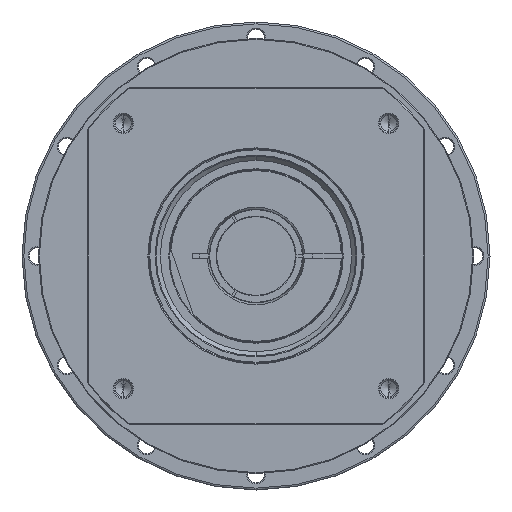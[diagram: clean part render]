
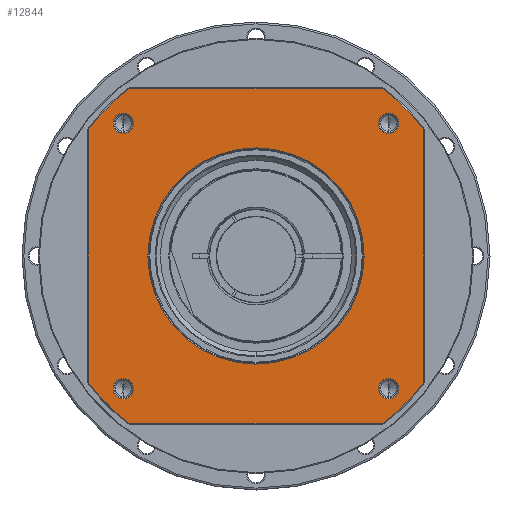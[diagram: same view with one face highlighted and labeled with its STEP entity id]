
A CAD part, left-side view. The second image highlights one B-rep face of the part: STEP entity #12844.
In plain terms, the highlighted planar face has unit normal (-1, 0, 0) as drawn and (0, 0, 1) by its records, which use the part's own axes.
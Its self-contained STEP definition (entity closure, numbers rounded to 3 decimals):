
#11577=DIRECTION('',(1.,0.,0.));
#11578=VECTOR('',#11577,134.666);
#11579=CARTESIAN_POINT('',(-67.333,-89.5,41.));
#11580=LINE('',#11579,#11578);
#11590=CARTESIAN_POINT('',(0.,0.,
41.));
#11591=DIRECTION('',(0.,0.,-1.));
#11592=DIRECTION('',(0.,-1.,0.));
#11593=AXIS2_PLACEMENT_3D('',#11590,#11591,#11592);
#11595=CARTESIAN_POINT('',(0.,0.,
41.));
#11596=DIRECTION('',(0.,0.,-1.));
#11597=DIRECTION('',(0.,1.,0.));
#11598=AXIS2_PLACEMENT_3D('',#11595,#11596,#11597);
#11600=CARTESIAN_POINT('',(0.,0.,41.));
#11601=DIRECTION('',(0.,0.,1.));
#11602=DIRECTION('',(-0.799,-0.601,0.));
#11603=AXIS2_PLACEMENT_3D('',#11600,#11601,#11602);
#11615=DIRECTION('',(0.,-1.,0.));
#11616=VECTOR('',#11615,134.666);
#11617=CARTESIAN_POINT('',(-89.5,67.333,41.));
#11618=LINE('',#11617,#11616);
#11628=CARTESIAN_POINT('',(0.,0.,41.));
#11629=DIRECTION('',(0.,0.,1.));
#11630=DIRECTION('',(-0.601,0.799,0.));
#11631=AXIS2_PLACEMENT_3D('',#11628,#11629,#11630);
#11656=DIRECTION('',(-1.,0.,0.));
#11657=VECTOR('',#11656,134.666);
#11658=CARTESIAN_POINT('',(67.333,89.5,41.));
#11659=LINE('',#11658,#11657);
#11664=CARTESIAN_POINT('',(0.,0.,41.));
#11665=DIRECTION('',(0.,0.,1.));
#11666=DIRECTION('',(0.799,0.601,0.));
#11667=AXIS2_PLACEMENT_3D('',#11664,#11665,#11666);
#11679=DIRECTION('',(0.,1.,0.));
#11680=VECTOR('',#11679,134.666);
#11681=CARTESIAN_POINT('',(89.5,-67.333,41.));
#11682=LINE('',#11681,#11680);
#11784=CARTESIAN_POINT('',(0.,0.,41.));
#11785=DIRECTION('',(0.,0.,1.));
#11786=DIRECTION('',(0.601,-0.799,0.));
#11787=AXIS2_PLACEMENT_3D('',#11784,#11785,#11786);
#12061=CARTESIAN_POINT('',(-70.711,70.711,41.));
#12062=DIRECTION('',(0.,0.,1.));
#12063=DIRECTION('',(-1.,0.,0.));
#12064=AXIS2_PLACEMENT_3D('',#12061,#12062,#12063);
#12079=CARTESIAN_POINT('',(-70.711,70.711,41.));
#12080=DIRECTION('',(0.,0.,1.));
#12081=DIRECTION('',(1.,0.,0.));
#12082=AXIS2_PLACEMENT_3D('',#12079,#12080,#12081);
#12115=CARTESIAN_POINT('',(70.711,70.711,41.));
#12116=DIRECTION('',(0.,0.,1.));
#12117=DIRECTION('',(-1.,0.,0.));
#12118=AXIS2_PLACEMENT_3D('',#12115,#12116,#12117);
#12133=CARTESIAN_POINT('',(70.711,70.711,41.));
#12134=DIRECTION('',(0.,0.,1.));
#12135=DIRECTION('',(1.,0.,0.));
#12136=AXIS2_PLACEMENT_3D('',#12133,#12134,#12135);
#12169=CARTESIAN_POINT('',(70.711,-70.711,41.));
#12170=DIRECTION('',(0.,0.,1.));
#12171=DIRECTION('',(-1.,0.,0.));
#12172=AXIS2_PLACEMENT_3D('',#12169,#12170,#12171);
#12187=CARTESIAN_POINT('',(70.711,-70.711,41.));
#12188=DIRECTION('',(0.,0.,1.));
#12189=DIRECTION('',(1.,0.,0.));
#12190=AXIS2_PLACEMENT_3D('',#12187,#12188,#12189);
#12223=CARTESIAN_POINT('',(-70.711,-70.711,41.));
#12224=DIRECTION('',(0.,0.,1.));
#12225=DIRECTION('',(-1.,0.,0.));
#12226=AXIS2_PLACEMENT_3D('',#12223,#12224,#12225);
#12241=CARTESIAN_POINT('',(-70.711,-70.711,41.));
#12242=DIRECTION('',(0.,0.,1.));
#12243=DIRECTION('',(1.,0.,0.));
#12244=AXIS2_PLACEMENT_3D('',#12241,#12242,#12243);
#12285=CARTESIAN_POINT('',(89.5,-67.333,41.));
#12286=CARTESIAN_POINT('',(89.5,67.333,41.));
#12287=VERTEX_POINT('',#12285);
#12288=VERTEX_POINT('',#12286);
#12293=CARTESIAN_POINT('',(67.333,-89.5,41.));
#12294=VERTEX_POINT('',#12293);
#12297=CARTESIAN_POINT('',(-67.333,-89.5,41.));
#12298=VERTEX_POINT('',#12297);
#12301=CARTESIAN_POINT('',(-89.5,-67.333,41.));
#12302=VERTEX_POINT('',#12301);
#12305=CARTESIAN_POINT('',(-89.5,67.333,41.));
#12306=VERTEX_POINT('',#12305);
#12309=CARTESIAN_POINT('',(-67.333,89.5,41.));
#12310=VERTEX_POINT('',#12309);
#12313=CARTESIAN_POINT('',(67.333,89.5,41.));
#12314=VERTEX_POINT('',#12313);
#12363=CARTESIAN_POINT('',(-76.061,70.711,41.));
#12364=CARTESIAN_POINT('',(-65.361,70.711,41.));
#12365=VERTEX_POINT('',#12363);
#12366=VERTEX_POINT('',#12364);
#12397=CARTESIAN_POINT('',(76.061,70.711,41.));
#12398=CARTESIAN_POINT('',(65.361,70.711,41.));
#12399=VERTEX_POINT('',#12397);
#12400=VERTEX_POINT('',#12398);
#12405=CARTESIAN_POINT('',(76.061,-70.711,41.));
#12406=CARTESIAN_POINT('',(65.361,-70.711,41.));
#12407=VERTEX_POINT('',#12405);
#12408=VERTEX_POINT('',#12406);
#12413=CARTESIAN_POINT('',(-65.361,-70.711,41.));
#12414=CARTESIAN_POINT('',(-76.061,-70.711,41.));
#12415=VERTEX_POINT('',#12413);
#12416=VERTEX_POINT('',#12414);
#12421=CARTESIAN_POINT('',(0.,-57.65,41.));
#12422=CARTESIAN_POINT('',(0.,57.65,41.));
#12423=VERTEX_POINT('',#12421);
#12424=VERTEX_POINT('',#12422);
#12792=CARTESIAN_POINT('',(0.,0.,41.));
#12793=DIRECTION('',(0.,0.,1.));
#12794=DIRECTION('',(1.,0.,0.));
#12795=AXIS2_PLACEMENT_3D('',#12792,#12793,#12794);
#12796=PLANE('',#12795);
#12798=ORIENTED_EDGE('',*,*,#12797,.F.);
#12800=ORIENTED_EDGE('',*,*,#12799,.F.);
#12802=ORIENTED_EDGE('',*,*,#12801,.F.);
#12804=ORIENTED_EDGE('',*,*,#12803,.F.);
#12806=ORIENTED_EDGE('',*,*,#12805,.F.);
#12808=ORIENTED_EDGE('',*,*,#12807,.F.);
#12810=ORIENTED_EDGE('',*,*,#12809,.F.);
#12811=ORIENTED_EDGE('',*,*,#12782,.F.);
#12812=EDGE_LOOP('',(#12798,#12800,#12802,#12804,#12806,#12808,#12810,#12811));
#12813=FACE_OUTER_BOUND('',#12812,.F.);
#12815=ORIENTED_EDGE('',*,*,#12814,.F.);
#12817=ORIENTED_EDGE('',*,*,#12816,.F.);
#12818=EDGE_LOOP('',(#12815,#12817));
#12819=FACE_BOUND('',#12818,.F.);
#12821=ORIENTED_EDGE('',*,*,#12820,.T.);
#12823=ORIENTED_EDGE('',*,*,#12822,.T.);
#12824=EDGE_LOOP('',(#12821,#12823));
#12825=FACE_BOUND('',#12824,.F.);
#12827=ORIENTED_EDGE('',*,*,#12826,.T.);
#12829=ORIENTED_EDGE('',*,*,#12828,.T.);
#12830=EDGE_LOOP('',(#12827,#12829));
#12831=FACE_BOUND('',#12830,.F.);
#12833=ORIENTED_EDGE('',*,*,#12832,.T.);
#12835=ORIENTED_EDGE('',*,*,#12834,.T.);
#12836=EDGE_LOOP('',(#12833,#12835));
#12837=FACE_BOUND('',#12836,.F.);
#12839=ORIENTED_EDGE('',*,*,#12838,.T.);
#12841=ORIENTED_EDGE('',*,*,#12840,.T.);
#12842=EDGE_LOOP('',(#12839,#12841));
#12843=FACE_BOUND('',#12842,.F.);
#12844=ADVANCED_FACE('',(#12813,#12819,#12825,#12831,#12837,#12843),#12796,.T.);
#11594=CIRCLE('',#11593,57.65);
#11599=CIRCLE('',#11598,57.65);
#11604=CIRCLE('',#11603,112.);
#11632=CIRCLE('',#11631,112.);
#11668=CIRCLE('',#11667,112.);
#11788=CIRCLE('',#11787,112.);
#12065=CIRCLE('',#12064,5.35);
#12083=CIRCLE('',#12082,5.35);
#12119=CIRCLE('',#12118,5.35);
#12137=CIRCLE('',#12136,5.35);
#12173=CIRCLE('',#12172,5.35);
#12191=CIRCLE('',#12190,5.35);
#12227=CIRCLE('',#12226,5.35);
#12245=CIRCLE('',#12244,5.35);
#12782=EDGE_CURVE('',#12298,#12294,#11580,.T.);
#12797=EDGE_CURVE('',#12302,#12298,#11604,.T.);
#12799=EDGE_CURVE('',#12306,#12302,#11618,.T.);
#12801=EDGE_CURVE('',#12310,#12306,#11632,.T.);
#12803=EDGE_CURVE('',#12314,#12310,#11659,.T.);
#12805=EDGE_CURVE('',#12288,#12314,#11668,.T.);
#12807=EDGE_CURVE('',#12287,#12288,#11682,.T.);
#12809=EDGE_CURVE('',#12294,#12287,#11788,.T.);
#12814=EDGE_CURVE('',#12423,#12424,#11594,.T.);
#12816=EDGE_CURVE('',#12424,#12423,#11599,.T.);
#12820=EDGE_CURVE('',#12365,#12366,#12065,.T.);
#12822=EDGE_CURVE('',#12366,#12365,#12083,.T.);
#12826=EDGE_CURVE('',#12400,#12399,#12119,.T.);
#12828=EDGE_CURVE('',#12399,#12400,#12137,.T.);
#12832=EDGE_CURVE('',#12408,#12407,#12173,.T.);
#12834=EDGE_CURVE('',#12407,#12408,#12191,.T.);
#12838=EDGE_CURVE('',#12416,#12415,#12227,.T.);
#12840=EDGE_CURVE('',#12415,#12416,#12245,.T.);
